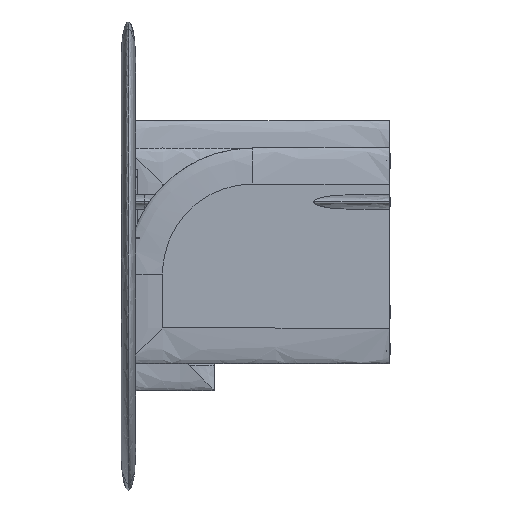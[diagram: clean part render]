
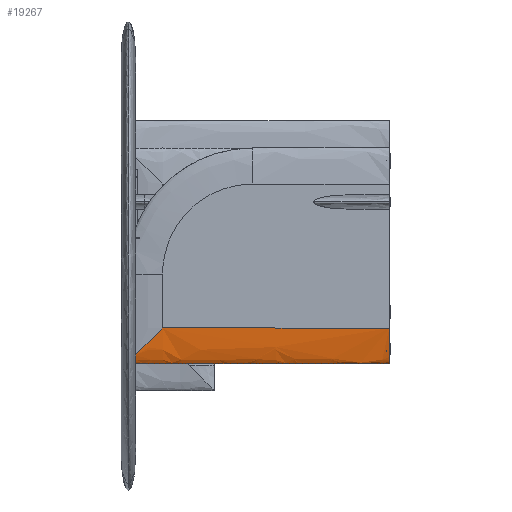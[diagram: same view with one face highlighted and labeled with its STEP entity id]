
A CAD part, left-side view. The second image highlights one B-rep face of the part: STEP entity #19267.
In plain terms, the highlighted free-form (B-spline) face has degree [3, 1] with [4, 2] control points.
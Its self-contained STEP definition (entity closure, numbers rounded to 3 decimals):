
#233 = CARTESIAN_POINT ( 'NONE',  ( 195.037, 636.269, -356.269 ) ) ;
#360 = CARTESIAN_POINT ( 'NONE',  ( 197.011, 673.85, -393.85 ) ) ;
#1103 =( BOUNDED_CURVE ( )  B_SPLINE_CURVE ( 3, ( #19316, #3484, #19192, #9237 ),
 .UNSPECIFIED., .F., .T. ) 
 B_SPLINE_CURVE_WITH_KNOTS ( ( 4, 4 ),
 ( 2.419, 3.864 ),
 .UNSPECIFIED. ) 
 CURVE ( )  GEOMETRIC_REPRESENTATION_ITEM ( )  RATIONAL_B_SPLINE_CURVE ( ( 1., 0.833, 0.833, 1. ) ) 
 REPRESENTATION_ITEM ( '' )  );
#1283 = CARTESIAN_POINT ( 'NONE',  ( 228.229, 705., -425. ) ) ;
#1633 = CARTESIAN_POINT ( 'NONE',  ( 195., 0., -350. ) ) ;
#2301 = CARTESIAN_POINT ( 'NONE',  ( 195.148, 642.537, -362.537 ) ) ;
#2425 = CARTESIAN_POINT ( 'NONE',  ( 195., 630., -350. ) ) ;
#2553 = CARTESIAN_POINT ( 'NONE',  ( 195.059, 637.836, -357.836 ) ) ;
#2934 = VERTEX_POINT ( 'NONE', #9053 ) ;
#3216 = CARTESIAN_POINT ( 'NONE',  ( 230.622, 692.58, -412.58 ) ) ;
#3484 = CARTESIAN_POINT ( 'NONE',  ( 209.708, 705., -460. ) ) ;
#4283 = CARTESIAN_POINT ( 'NONE',  ( 195., 0., -550. ) ) ;
#4362 = CARTESIAN_POINT ( 'NONE',  ( 195.015, 633.919, -353.919 ) ) ;
#4621 = CARTESIAN_POINT ( 'NONE',  ( 195., 630.394, -350.394 ) ) ;
#4685 = DIRECTION ( 'NONE',  ( 0., -1., 0. ) ) ;
#4791 = ORIENTED_EDGE ( 'NONE', *, *, #19963, .F. ) ;
#4909 = CARTESIAN_POINT ( 'NONE',  ( 234.403, 655.071, -375.071 ) ) ;
#5094 = CARTESIAN_POINT ( 'NONE',  ( 195., 0., -350. ) ) ;
#5139 = CARTESIAN_POINT ( 'NONE',  ( 232.323, 680.101, -400.101 ) ) ;
#5189 = EDGE_CURVE ( 'NONE', #18481, #2934, #6606, .T. ) ;
#5265 = B_SPLINE_CURVE_WITH_KNOTS ( 'NONE', 3,
 ( #12007, #15959, #10115, #12256, #17906, #22108, #21861, #360, #8432, #16217, #24014, #19805, #2301, #2553, #233, #4362, #19930, #12132, #6524, #4621, #2425 ),
 .UNSPECIFIED., .F., .F.,
 ( 4, 2, 2, 2, 2, 2, 2, 2, 1, 2, 4 ),
 ( 0.039, 0.053, 0.066, 0.079, 0.093, 0.119, 0.133, 0.139, 0.143, 0.144, 0.146 ),
 .UNSPECIFIED. ) ;
#5692 = CARTESIAN_POINT ( 'NONE',  ( 235., 730.6, -350. ) ) ;
#5940 = FACE_OUTER_BOUND ( 'NONE', #9187, .T. ) ;
#6458 = ORIENTED_EDGE ( 'NONE', *, *, #21816, .F. ) ;
#6524 = CARTESIAN_POINT ( 'NONE',  ( 195., 630.784, -350.784 ) ) ;
#6606 =( BOUNDED_CURVE ( )  B_SPLINE_CURVE ( 3, ( #1633, #18823, #6952, #9584 ),
 .UNSPECIFIED., .F., .T. ) 
 B_SPLINE_CURVE_WITH_KNOTS ( ( 4, 4 ),
 ( 1.571, 4.712 ),
 .UNSPECIFIED. ) 
 CURVE ( )  GEOMETRIC_REPRESENTATION_ITEM ( )  RATIONAL_B_SPLINE_CURVE ( ( 1., 0.333, 0.333, 1. ) ) 
 REPRESENTATION_ITEM ( '' )  );
#6692 = CARTESIAN_POINT ( 'NONE',  ( 229.537, 698.802, -418.802 ) ) ;
#6952 = CARTESIAN_POINT ( 'NONE',  ( 235., 0., -550. ) ) ;
#7057 = CARTESIAN_POINT ( 'NONE',  ( 234.041, 661.335, -381.335 ) ) ;
#7574 = CARTESIAN_POINT ( 'NONE',  ( 195., 630., -350. ) ) ;
#7854 = CARTESIAN_POINT ( 'NONE',  ( 235., 705., -550. ) ) ;
#7869 = CARTESIAN_POINT ( 'NONE',  ( 195., 730.6, -350. ) ) ;
#8432 = CARTESIAN_POINT ( 'NONE',  ( 196.721, 670.723, -390.723 ) ) ;
#9053 = CARTESIAN_POINT ( 'NONE',  ( 235., 0., -350. ) ) ;
#9187 = EDGE_LOOP ( 'NONE', ( #16418, #10032, #6458, #21734, #17532, #4791 ) ) ;
#9237 = CARTESIAN_POINT ( 'NONE',  ( 228.229, 705., -425. ) ) ;
#9584 = CARTESIAN_POINT ( 'NONE',  ( 235., 0., -350. ) ) ;
#9741 =( BOUNDED_SURFACE ( )  B_SPLINE_SURFACE ( 3, 1, ( 
 ( #17819, #21652 ),
 ( #17696, #4283 ),
 ( #7854, #18075 ),
 ( #13990, #23678 ) ),
 .UNSPECIFIED., .F., .F., .F. ) 
 B_SPLINE_SURFACE_WITH_KNOTS ( ( 4, 4 ),
 ( 2, 2 ),
 ( 0., 1. ),
 ( 0., 1. ),
 .UNSPECIFIED. ) 
 GEOMETRIC_REPRESENTATION_ITEM ( )  RATIONAL_B_SPLINE_SURFACE ( (
 ( 1., 1.),
 ( 0.333, 0.333),
 ( 0.333, 0.333),
 ( 1., 1.) ) ) 
 REPRESENTATION_ITEM ( '' )  SURFACE ( )  );
#10032 = ORIENTED_EDGE ( 'NONE', *, *, #16900, .T. ) ;
#10115 = CARTESIAN_POINT ( 'NONE',  ( 200.463, 698.802, -418.802 ) ) ;
#10996 = CARTESIAN_POINT ( 'NONE',  ( 201.771, 705., -425. ) ) ;
#11093 = VERTEX_POINT ( 'NONE', #7574 ) ;
#12007 = CARTESIAN_POINT ( 'NONE',  ( 201.771, 705., -425. ) ) ;
#12132 = CARTESIAN_POINT ( 'NONE',  ( 195.002, 631.568, -351.568 ) ) ;
#12256 = CARTESIAN_POINT ( 'NONE',  ( 199.378, 692.58, -412.58 ) ) ;
#12920 = CARTESIAN_POINT ( 'NONE',  ( 231.949, 683.225, -403.225 ) ) ;
#13487 = DIRECTION ( 'NONE',  ( 0., -1., 0. ) ) ;
#13990 = CARTESIAN_POINT ( 'NONE',  ( 235., 705., -350. ) ) ;
#14475 = CARTESIAN_POINT ( 'NONE',  ( 228.93, 701.907, -421.907 ) ) ;
#14478 = B_SPLINE_CURVE_WITH_KNOTS ( 'NONE', 3,
 ( #18811, #24570, #22393, #4909, #7057, #14840, #22628, #5139, #12920, #20727, #3216, #6692, #14475, #1283 ),
 .UNSPECIFIED., .F., .F.,
 ( 4, 2, 2, 2, 2, 2, 4 ),
 ( 0., 0.026, 0.053, 0.066, 0.08, 0.093, 0.106 ),
 .UNSPECIFIED. ) ;
#14533 = CARTESIAN_POINT ( 'NONE',  ( 228.229, 705., -425. ) ) ;
#14840 = CARTESIAN_POINT ( 'NONE',  ( 233.279, 670.722, -390.722 ) ) ;
#15518 = LINE ( 'NONE', #7869, #16051 ) ;
#15959 = CARTESIAN_POINT ( 'NONE',  ( 201.07, 701.907, -421.907 ) ) ;
#16038 = VERTEX_POINT ( 'NONE', #21351 ) ;
#16051 = VECTOR ( 'NONE', #4685, 1000. ) ;
#16217 = CARTESIAN_POINT ( 'NONE',  ( 195.959, 661.335, -381.335 ) ) ;
#16418 = ORIENTED_EDGE ( 'NONE', *, *, #23465, .F. ) ;
#16516 = EDGE_CURVE ( 'NONE', #16038, #2934, #23172, .T. ) ;
#16900 = EDGE_CURVE ( 'NONE', #24600, #25234, #1103, .T. ) ;
#17532 = ORIENTED_EDGE ( 'NONE', *, *, #5189, .F. ) ;
#17696 = CARTESIAN_POINT ( 'NONE',  ( 195., 705., -550. ) ) ;
#17819 = CARTESIAN_POINT ( 'NONE',  ( 195., 705., -350. ) ) ;
#17906 = CARTESIAN_POINT ( 'NONE',  ( 198.902, 689.464, -409.464 ) ) ;
#18028 = VECTOR ( 'NONE', #13487, 1000. ) ;
#18075 = CARTESIAN_POINT ( 'NONE',  ( 235., 0., -550. ) ) ;
#18481 = VERTEX_POINT ( 'NONE', #5094 ) ;
#18811 = CARTESIAN_POINT ( 'NONE',  ( 235., 630., -350. ) ) ;
#18823 = CARTESIAN_POINT ( 'NONE',  ( 195., 0., -550. ) ) ;
#19192 = CARTESIAN_POINT ( 'NONE',  ( 220.292, 705., -460. ) ) ;
#19267 = ADVANCED_FACE ( 'NONE', ( #5940 ), #9741, .T. ) ;
#19316 = CARTESIAN_POINT ( 'NONE',  ( 201.771, 705., -425. ) ) ;
#19805 = CARTESIAN_POINT ( 'NONE',  ( 195.237, 645.671, -365.671 ) ) ;
#19930 = CARTESIAN_POINT ( 'NONE',  ( 195.006, 632.743, -352.743 ) ) ;
#19963 = EDGE_CURVE ( 'NONE', #11093, #18481, #15518, .T. ) ;
#20727 = CARTESIAN_POINT ( 'NONE',  ( 231.098, 689.464, -409.464 ) ) ;
#21351 = CARTESIAN_POINT ( 'NONE',  ( 235., 630., -350. ) ) ;
#21652 = CARTESIAN_POINT ( 'NONE',  ( 195., 0., -350. ) ) ;
#21734 = ORIENTED_EDGE ( 'NONE', *, *, #16516, .T. ) ;
#21816 = EDGE_CURVE ( 'NONE', #16038, #25234, #14478, .T. ) ;
#21861 = CARTESIAN_POINT ( 'NONE',  ( 197.677, 680.101, -400.101 ) ) ;
#22108 = CARTESIAN_POINT ( 'NONE',  ( 198.051, 683.225, -403.225 ) ) ;
#22393 = CARTESIAN_POINT ( 'NONE',  ( 234.883, 642.537, -362.537 ) ) ;
#22628 = CARTESIAN_POINT ( 'NONE',  ( 232.989, 673.85, -393.85 ) ) ;
#23172 = LINE ( 'NONE', #5692, #18028 ) ;
#23465 = EDGE_CURVE ( 'NONE', #24600, #11093, #5265, .T. ) ;
#23678 = CARTESIAN_POINT ( 'NONE',  ( 235., 0., -350. ) ) ;
#24014 = CARTESIAN_POINT ( 'NONE',  ( 195.597, 655.071, -375.071 ) ) ;
#24570 = CARTESIAN_POINT ( 'NONE',  ( 235., 636.269, -356.269 ) ) ;
#24600 = VERTEX_POINT ( 'NONE', #10996 ) ;
#25234 = VERTEX_POINT ( 'NONE', #14533 ) ;
